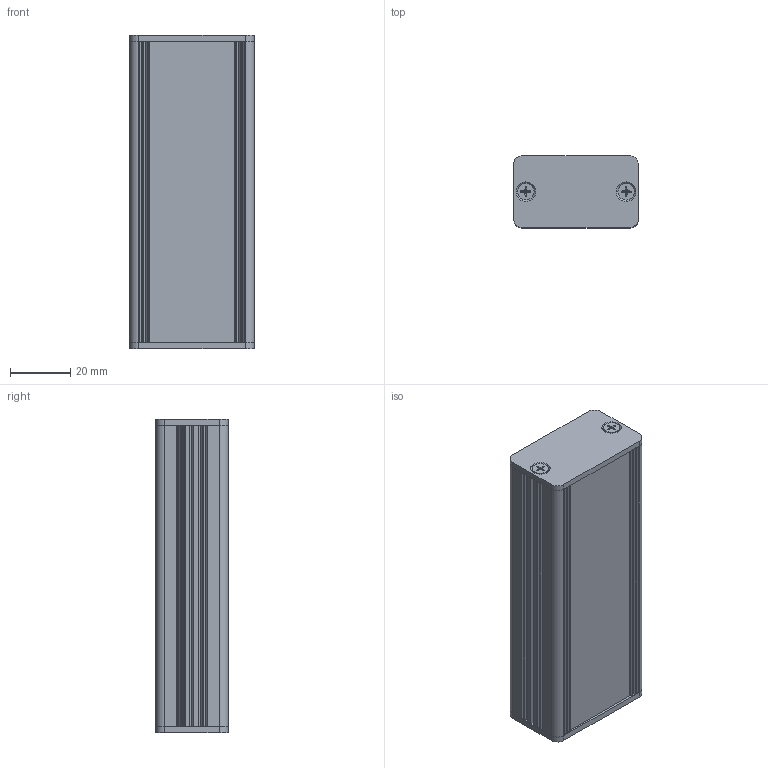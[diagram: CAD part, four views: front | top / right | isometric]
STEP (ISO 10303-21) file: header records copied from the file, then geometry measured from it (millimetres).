
FILE_DESCRIPTION((''),'2;1');
FILE_NAME('C:\Dokumente und Einstellungen\Lochen\Desktop\AKG\AKG_41_24_100.stp','2015-01-15T13:38:11',('Lochen'),(''),'Autodesk Inventor 2012','Autodesk Inventor 2012','');
FILE_SCHEMA(('AUTOMOTIVE_DESIGN { 1 0 10303 214 1 1 1 1 }'));
Length unit declared in the file: millimetre
Products named in the file (4): 001041800; 001032082; L0015SGD000022A; DIN EN ISO 7046-1 H M3 x 10 - 4.8 - H
Assembly tree (8 placements, depth 2):
  001041800
    001032082  x2
    L0015SGD000022A  x2
    DIN EN ISO 7046-1 H M3 x 10 - 4.8 - H  x4
Bounding box: 41.32 x 24.04 x 104 mm (x, y, z)
Volume: 28094.3 mm3; surface area: 35831.1 mm2
Topology: 8 solids, 8 shells, 372 faces, 1040 edges, 684 vertices
Faces by surface type: plane 154, cylinder 146, cone 52, torus 20
Full cylindrical faces by diameter (mm): 2.693 x4, 3 x4, 3.4 x4, 5.5 x4
Entity records: 5267 total; most frequent: CARTESIAN_POINT 1010, DIRECTION 904, ORIENTED_EDGE 856, EDGE_CURVE 428, AXIS2_PLACEMENT_3D 328, VERTEX_POINT 290, VECTOR 248, LINE 248
